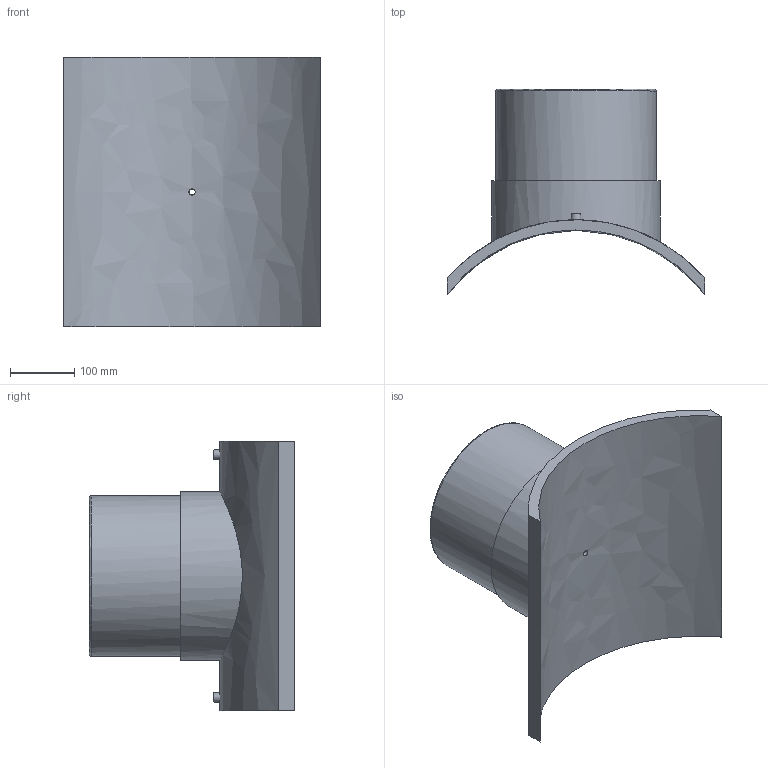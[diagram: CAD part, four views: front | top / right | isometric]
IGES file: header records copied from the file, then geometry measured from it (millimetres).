
Global section: file name: 495803630250T; native system: Autodesk Inventor 2019; preprocessor: unknown; author: KIM; date: 20240404.114902; units: millimetre
Bounding box: 400 x 319 x 420 mm (x, y, z)
Volume: 7285153.7 mm3; surface area: 738213.2 mm2
Topology: 1 solids, 1 shells, 29 faces, 60 edges, 43 vertices
Faces by surface type: bspline 29
